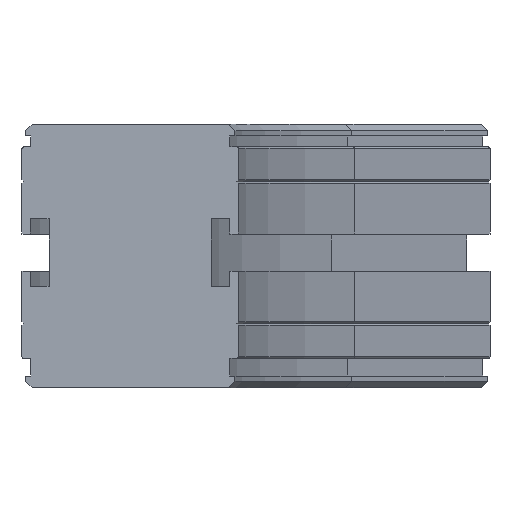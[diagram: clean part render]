
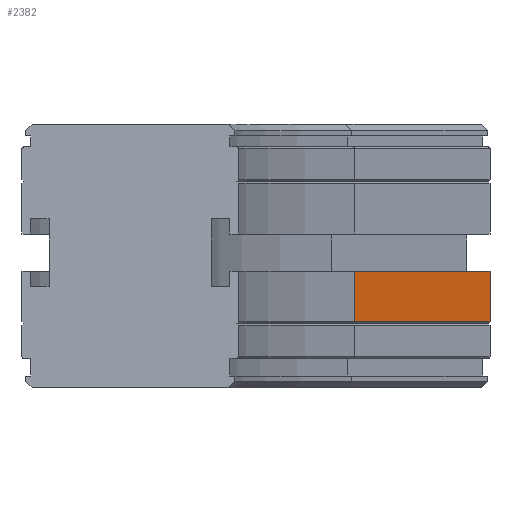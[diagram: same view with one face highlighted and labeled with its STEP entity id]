
A CAD part, left-side view. The second image highlights one B-rep face of the part: STEP entity #2382.
In plain terms, the highlighted planar face has unit normal (-0.5, -0.866, 0).
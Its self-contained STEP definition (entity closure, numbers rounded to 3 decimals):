
#2326=CARTESIAN_POINT('',(277.782,-106.431,-58.5));
#2327=VERTEX_POINT('',#2326);
#2334=CARTESIAN_POINT('',(208.5,-66.431,-58.5));
#2335=VERTEX_POINT('',#2334);
#2336=CARTESIAN_POINT('',(208.5,-66.431,-58.5));
#2337=DIRECTION('',(0.866,-0.5,0.0));
#2338=VECTOR('',#2337,80.);
#2339=LINE('',#2336,#2338);
#2340=EDGE_CURVE('',#2335,#2327,#2339,.T.);
#2352=CARTESIAN_POINT('',(208.5,-66.431,-58.5));
#2353=DIRECTION('',(-0.5,-0.866,0.));
#2354=DIRECTION('',(0.0,0.0,1.0));
#2355=AXIS2_PLACEMENT_3D('',#2352,#2353,#2354);
#2356=PLANE('',#2355);
#2357=CARTESIAN_POINT('',(277.782,-106.431,-43.5));
#2358=VERTEX_POINT('',#2357);
#2359=CARTESIAN_POINT('',(277.782,-106.431,-58.5));
#2360=DIRECTION('',(0.0,0.0,1.0));
#2361=VECTOR('',#2360,15.);
#2362=LINE('',#2359,#2361);
#2363=EDGE_CURVE('',#2327,#2358,#2362,.T.);
#2364=ORIENTED_EDGE('',*,*,#2363,.T.);
#2365=CARTESIAN_POINT('',(208.5,-66.431,-43.5));
#2366=VERTEX_POINT('',#2365);
#2367=CARTESIAN_POINT('',(208.5,-66.431,-43.5));
#2368=DIRECTION('',(0.866,-0.5,0.0));
#2369=VECTOR('',#2368,80.);
#2370=LINE('',#2367,#2369);
#2371=EDGE_CURVE('',#2366,#2358,#2370,.T.);
#2372=ORIENTED_EDGE('',*,*,#2371,.F.);
#2373=CARTESIAN_POINT('',(208.5,-66.431,-58.5));
#2374=DIRECTION('',(0.0,0.0,1.0));
#2375=VECTOR('',#2374,15.);
#2376=LINE('',#2373,#2375);
#2377=EDGE_CURVE('',#2335,#2366,#2376,.T.);
#2378=ORIENTED_EDGE('',*,*,#2377,.F.);
#2379=ORIENTED_EDGE('',*,*,#2340,.T.);
#2380=EDGE_LOOP('',(#2364,#2372,#2378,#2379));
#2381=FACE_OUTER_BOUND('',#2380,.T.);
#2382=ADVANCED_FACE('',(#2381),#2356,.T.);
